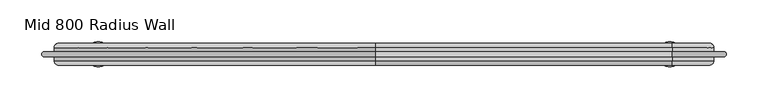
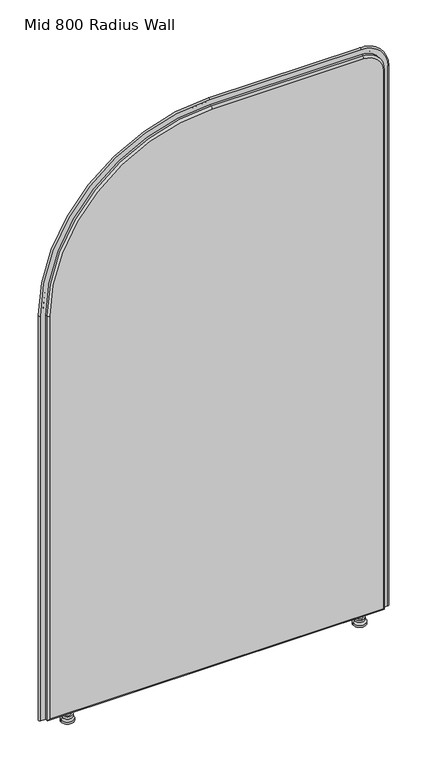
"""IFC4 building model written with IfcOpenShell, lengths in millimetres: furniture geometry, DBLTD_Sixteen3_PrivacyScreens_Artus_ArchRadius : Mid 800 Radius Wall."""

from ifc_helpers import new_model, si_unit, point, frame, origin, place, context, project, spatial, polyline, circle_curve, ellipse_curve, trimmed, source, transform, mapped, element, save
from ifc_brep_helpers import plane_surface, cylinder_surface, revolved_surface, advanced_brep


def mid_800_radius_wall_df8133a5(model_context):
    return source(origin(), model_context, "Body", "AdvancedBrep", [
        advanced_brep(
        [(342.2938623, -820.0, 22.0), (335.2938623, -820.0, 22.0), (349.2938623, -820.0, 22.0), (335.2938623, -820.0, 15.0), (349.2938623, -820.0, 15.0), (330.8431626, -820.0, 15.0), (353.744562, -820.0, 15.0), (330.8431626, -820.0, 10.0), (353.744562, -820.0, 10.0), (327.2938623, -820.0, 5.0), (357.2938623, -820.0, 5.0), (327.2938623, -820.0, 0.0), (357.2938623, -820.0, 0.0), (342.2938623, -820.0, 0.0)],
        [
            (0, 1),
            (1, 2, circle_curve(frame((342.2938623, -820.0, 22.0), z_axis=(0.0, 0.0, 1.0), x_axis=(1.0, 0.0, 0.0)), 7.0)),
            (2, 0),
            (2, 1, circle_curve(frame((342.2938623, -820.0, 22.0), z_axis=(0.0, 0.0, 1.0), x_axis=(1.0, 0.0, 0.0)), 7.0)),
            (1, 3),
            (3, 4, circle_curve(frame((342.2938623, -820.0, 15.0), z_axis=(0.0, 0.0, 1.0), x_axis=(1.0, 0.0, 0.0)), 7.0)),
            (4, 2),
            (4, 3, circle_curve(frame((342.2938623, -820.0, 15.0), z_axis=(0.0, 0.0, 1.0), x_axis=(1.0, 0.0, 0.0)), 7.0)),
            (3, 5),
            (5, 6, circle_curve(frame((342.2938623, -820.0, 15.0), z_axis=(0.0, 0.0, 1.0), x_axis=(1.0, 0.0, 0.0)), 11.4506997)),
            (6, 4),
            (6, 5, circle_curve(frame((342.2938623, -820.0, 15.0), z_axis=(0.0, 0.0, 1.0), x_axis=(1.0, 0.0, 0.0)), 11.4506997)),
            (5, 7),
            (7, 8, circle_curve(frame((342.2938623, -820.0, 10.0), z_axis=(0.0, 0.0, 1.0), x_axis=(1.0, 0.0, 0.0)), 11.4506997)),
            (8, 6),
            (8, 7, circle_curve(frame((342.2938623, -820.0, 10.0), z_axis=(0.0, 0.0, 1.0), x_axis=(1.0, 0.0, 0.0)), 11.4506997)),
            (7, 9),
            (9, 10, circle_curve(frame((342.2938623, -820.0, 5.0), z_axis=(0.0, 0.0, 1.0), x_axis=(1.0, 0.0, 0.0)), 15.0)),
            (10, 8),
            (10, 9, circle_curve(frame((342.2938623, -820.0, 5.0), z_axis=(0.0, 0.0, 1.0), x_axis=(1.0, 0.0, 0.0)), 15.0)),
            (9, 11),
            (11, 12, circle_curve(frame((342.2938623, -820.0, 0.0), z_axis=(0.0, 0.0, 1.0), x_axis=(1.0, 0.0, 0.0)), 15.0)),
            (12, 10),
            (12, 11, circle_curve(frame((342.2938623, -820.0, 0.0), z_axis=(0.0, 0.0, 1.0), x_axis=(1.0, 0.0, 0.0)), 15.0)),
            (11, 13),
            (13, 12),
        ],
        [
            plane_surface(frame((342.2938623, -820.0, 22.0), z_axis=(0.0, 0.0, 1.0), x_axis=(1.0, 0.0, 0.0))),
            cylinder_surface(frame((342.2938623, -820.0, 5.0), z_axis=(0.0, 0.0, 1.0), x_axis=(1.0, 0.0, 0.0)), 7.0),
            plane_surface(frame((342.2938623, -820.0, 15.0), z_axis=(0.0, 0.0, 1.0), x_axis=(1.0, 0.0, 0.0))),
            cylinder_surface(frame((342.2938623, -820.0, 5.0), z_axis=(0.0, 0.0, 1.0), x_axis=(1.0, 0.0, 0.0)), 11.4506997),
            revolved_surface(polyline([(357.2938623, -820.0, 5.0), (353.744562, -820.0, 10.0)]), (342.2938623, -820.0, 5.0), (0.0, 0.0, 1.0)),
            cylinder_surface(frame((342.2938623, -820.0, 5.0), z_axis=(0.0, 0.0, 1.0), x_axis=(1.0, 0.0, 0.0)), 15.0),
            plane_surface(frame((342.2938623, -820.0, 0.0), z_axis=(0.0, 0.0, -1.0), x_axis=(1.0, 0.0, 0.0))),
        ],
        [
            (0, [[1, 2, 3]]),
            (0, [[-3, 4, -1]]),
            (1, [[5, 6, 7, -2]]),
            (1, [[-7, 8, -5, -4]]),
            (2, [[9, 10, 11, -6]]),
            (2, [[-11, 12, -9, -8]]),
            (3, [[13, 14, 15, -10]]),
            (3, [[-15, 16, -13, -12]]),
            (4, [[17, 18, 19, -14]]),
            (4, [[-19, 20, -17, -16]]),
            (5, [[21, 22, 23, -18]]),
            (5, [[-23, 24, -21, -20]]),
            (6, [[25, 26, -22]]),
            (6, [[-26, -25, -24]]),
        ],
    ),
        advanced_brep(
        [(-335.2938623, -820.0, 22.0), (-342.2938623, -820.0, 22.0), (-349.2938623, -820.0, 22.0), (-335.2938623, -820.0, 15.0), (-349.2938623, -820.0, 15.0), (-330.8431626, -820.0, 15.0), (-353.744562, -820.0, 15.0), (-330.8431626, -820.0, 10.0), (-353.744562, -820.0, 10.0), (-327.2938623, -820.0, 5.0), (-357.2938623, -820.0, 5.0), (-327.2938623, -820.0, 0.0), (-357.2938623, -820.0, 0.0), (-342.2938623, -820.0, 0.0)],
        [
            (0, 1),
            (1, 2),
            (2, 0, circle_curve(frame((-342.2938623, -820.0, 22.0), z_axis=(0.0, 0.0, 1.0), x_axis=(-1.0, 0.0, 0.0)), 7.0)),
            (0, 2, circle_curve(frame((-342.2938623, -820.0, 22.0), z_axis=(0.0, 0.0, 1.0), x_axis=(-1.0, 0.0, 0.0)), 7.0)),
            (3, 0),
            (2, 4),
            (4, 3, circle_curve(frame((-342.2938623, -820.0, 15.0), z_axis=(0.0, 0.0, 1.0), x_axis=(-1.0, 0.0, 0.0)), 7.0)),
            (3, 4, circle_curve(frame((-342.2938623, -820.0, 15.0), z_axis=(0.0, 0.0, 1.0), x_axis=(-1.0, 0.0, 0.0)), 7.0)),
            (5, 3),
            (4, 6),
            (6, 5, circle_curve(frame((-342.2938623, -820.0, 15.0), z_axis=(0.0, 0.0, 1.0), x_axis=(-1.0, 0.0, 0.0)), 11.4506997)),
            (5, 6, circle_curve(frame((-342.2938623, -820.0, 15.0), z_axis=(0.0, 0.0, 1.0), x_axis=(-1.0, 0.0, 0.0)), 11.4506997)),
            (7, 5),
            (6, 8),
            (8, 7, circle_curve(frame((-342.2938623, -820.0, 10.0), z_axis=(0.0, 0.0, 1.0), x_axis=(-1.0, 0.0, 0.0)), 11.4506997)),
            (7, 8, circle_curve(frame((-342.2938623, -820.0, 10.0), z_axis=(0.0, 0.0, 1.0), x_axis=(-1.0, 0.0, 0.0)), 11.4506997)),
            (9, 7),
            (8, 10),
            (10, 9, circle_curve(frame((-342.2938623, -820.0, 5.0), z_axis=(0.0, 0.0, 1.0), x_axis=(-1.0, 0.0, 0.0)), 15.0)),
            (9, 10, circle_curve(frame((-342.2938623, -820.0, 5.0), z_axis=(0.0, 0.0, 1.0), x_axis=(-1.0, 0.0, 0.0)), 15.0)),
            (11, 9),
            (10, 12),
            (12, 11, circle_curve(frame((-342.2938623, -820.0, 0.0), z_axis=(0.0, 0.0, 1.0), x_axis=(-1.0, 0.0, 0.0)), 15.0)),
            (11, 12, circle_curve(frame((-342.2938623, -820.0, 0.0), z_axis=(0.0, 0.0, 1.0), x_axis=(-1.0, 0.0, 0.0)), 15.0)),
            (13, 11),
            (12, 13),
        ],
        [
            plane_surface(frame((-342.2938623, -820.0, 22.0), z_axis=(0.0, 0.0, 1.0), x_axis=(-1.0, 0.0, 0.0))),
            cylinder_surface(frame((-342.2938623, -820.0, 5.0), z_axis=(0.0, 0.0, -1.0), x_axis=(-1.0, 0.0, 0.0)), 7.0),
            plane_surface(frame((-342.2938623, -820.0, 15.0), z_axis=(0.0, 0.0, 1.0), x_axis=(-1.0, 0.0, 0.0))),
            cylinder_surface(frame((-342.2938623, -820.0, 5.0), z_axis=(0.0, 0.0, -1.0), x_axis=(-1.0, 0.0, 0.0)), 11.4506997),
            revolved_surface(polyline([(-353.744562, -820.0, 10.0), (-357.2938623, -820.0, 5.0)]), (-342.2938623, -820.0, 5.0), (0.0, 0.0, -1.0)),
            cylinder_surface(frame((-342.2938623, -820.0, 5.0), z_axis=(0.0, 0.0, -1.0), x_axis=(-1.0, 0.0, 0.0)), 15.0),
            plane_surface(frame((-342.2938623, -820.0, 0.0), z_axis=(0.0, 0.0, -1.0), x_axis=(-1.0, 0.0, 0.0))),
        ],
        [
            (0, [[1, 2, 3]]),
            (0, [[-2, -1, 4]]),
            (1, [[5, -3, 6, 7]]),
            (1, [[-6, -4, -5, 8]]),
            (2, [[9, -7, 10, 11]]),
            (2, [[-10, -8, -9, 12]]),
            (3, [[13, -11, 14, 15]]),
            (3, [[-14, -12, -13, 16]]),
            (4, [[17, -15, 18, 19]]),
            (4, [[-18, -16, -17, 20]]),
            (5, [[21, -19, 22, 23]]),
            (5, [[-22, -20, -21, 24]]),
            (6, [[25, -23, 26]]),
            (6, [[-26, -24, -25]]),
        ],
    ),
        advanced_brep(
        [(-390.0, -807.0, 27.0), (-390.0, -807.0, 1025.0), (-10.0, -807.0, 1405.0), (345.0, -807.0, 1405.0), (390.0, -807.0, 1360.0), (390.0, -807.0, 27.0), (390.0, -833.0, 27.0), (390.0, -833.0, 1360.0), (345.0, -833.0, 1405.0), (-10.0, -833.0, 1405.0), (-390.0, -833.0, 1025.0), (-390.0, -833.0, 27.0), (345.0, -812.0, 1410.0), (-10.0, -812.0, 1410.0), (-10.0, -828.0, 1410.0), (345.0, -828.0, 1410.0), (-395.0, -812.0, 1025.0), (-395.0, -828.0, 1025.0), (-395.0, -812.0, 22.0), (-395.0, -828.0, 22.0), (395.0, -812.0, 22.0), (395.0, -828.0, 22.0), (395.0, -812.0, 1360.0), (395.0, -828.0, 1360.0)],
        [
            (0, 1),
            (1, 2, circle_curve(frame((-10.0, -807.0, 1025.0), z_axis=(0.0, 1.0, 0.0), x_axis=(0.0, 0.0, 1.0)), 380.0)),
            (2, 3),
            (3, 4, circle_curve(frame((345.0, -807.0, 1360.0), z_axis=(0.0, 1.0, 0.0), x_axis=(1.0, 0.0, 0.0)), 45.0)),
            (4, 5),
            (5, 0),
            (6, 7),
            (7, 8, circle_curve(frame((345.0, -833.0, 1360.0), z_axis=(0.0, -1.0, 0.0), x_axis=(1.0, 0.0, 0.0)), 45.0)),
            (8, 9),
            (9, 10, circle_curve(frame((-10.0, -833.0, 1025.0), z_axis=(0.0, -1.0, 0.0), x_axis=(0.0, 0.0, 1.0)), 380.0)),
            (10, 11),
            (11, 6),
            (12, 13),
            (13, 14),
            (14, 15),
            (15, 12),
            (13, 16, circle_curve(frame((-10.0, -812.0, 1025.0), z_axis=(0.0, -1.0, 0.0), x_axis=(1.0, 0.0, 0.0)), 385.0)),
            (16, 17),
            (17, 14, circle_curve(frame((-10.0, -828.0, 1025.0), z_axis=(0.0, 1.0, 0.0), x_axis=(1.0, 0.0, 0.0)), 385.0)),
            (16, 18),
            (18, 19),
            (19, 17),
            (18, 20),
            (20, 21),
            (21, 19),
            (20, 22),
            (22, 23),
            (23, 21),
            (15, 23, circle_curve(frame((345.0, -828.0, 1360.0), z_axis=(0.0, 1.0, 0.0), x_axis=(1.0, 0.0, 0.0)), 50.0)),
            (22, 12, circle_curve(frame((345.0, -812.0, 1360.0), z_axis=(0.0, -1.0, 0.0), x_axis=(1.0, 0.0, 0.0)), 50.0)),
            (18, 0, ellipse_curve(frame((-390.0, -812.0, 27.0), z_axis=(0.7071067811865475, 0.0, -0.7071067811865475), x_axis=(0.7071067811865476, 0.0, 0.7071067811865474)), 7.0710678, 5.0)),
            (5, 20, ellipse_curve(frame((390.0, -812.0, 27.0), z_axis=(-0.7071067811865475, 0.0, -0.7071067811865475), x_axis=(0.7071067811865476, 0.0, -0.7071067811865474)), 7.0710678, 5.0)),
            (11, 19, ellipse_curve(frame((-390.0, -828.0, 27.0), z_axis=(0.7071067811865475, 0.0, -0.7071067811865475), x_axis=(0.7071067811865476, 0.0, 0.7071067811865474)), 7.0710678, 5.0)),
            (21, 6, ellipse_curve(frame((390.0, -828.0, 27.0), z_axis=(-0.7071067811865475, 0.0, -0.7071067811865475), x_axis=(0.7071067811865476, 0.0, -0.7071067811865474)), 7.0710678, 5.0)),
            (4, 22, circle_curve(frame((390.0, -812.0, 1360.0), z_axis=(0.0, 0.0, -1.0), x_axis=(1.0, 0.0, 0.0)), 5.0)),
            (23, 7, circle_curve(frame((390.0, -828.0, 1360.0), z_axis=(0.0, 0.0, -1.0), x_axis=(1.0, 0.0, 0.0)), 5.0)),
            (3, 12, circle_curve(frame((345.0, -812.0, 1405.0), z_axis=(1.0, 0.0, 0.0), x_axis=(0.0, 0.0, 1.0)), 5.0)),
            (15, 8, circle_curve(frame((345.0, -828.0, 1405.0), z_axis=(1.0, 0.0, 0.0), x_axis=(0.0, 0.0, 1.0)), 5.0)),
            (2, 13, circle_curve(frame((-10.0, -812.0, 1405.0), z_axis=(1.0, 0.0, 0.0), x_axis=(0.0, 0.0, 1.0)), 5.0)),
            (14, 9, circle_curve(frame((-10.0, -828.0, 1405.0), z_axis=(1.0, 0.0, 0.0), x_axis=(0.0, 0.0, 1.0)), 5.0)),
            (1, 16, circle_curve(frame((-390.0, -812.0, 1025.0), z_axis=(0.0, 0.0, 1.0), x_axis=(-1.0, 0.0, 0.0)), 5.0)),
            (17, 10, circle_curve(frame((-390.0, -828.0, 1025.0), z_axis=(0.0, 0.0, 1.0), x_axis=(-1.0, 0.0, 0.0)), 5.0)),
        ],
        [
            plane_surface(frame((-10.0, -807.0, 1410.0), z_axis=(0.0, 1.0, 0.0), x_axis=(-1.0, 0.0, 0.0))),
            plane_surface(frame((-10.0, -833.0, 1410.0), z_axis=(0.0, -1.0, 0.0), x_axis=(1.0, 0.0, 0.0))),
            plane_surface(frame((345.0, -807.0, 1410.0), z_axis=(0.0, 0.0, 1.0), x_axis=(0.0, -1.0, 0.0))),
            cylinder_surface(frame((-10.0, -833.0, 1025.0), z_axis=(0.0, 1.0, 0.0), x_axis=(1.0, 0.0, 0.0)), 385.0),
            plane_surface(frame((-395.0, -807.0, 1025.0), z_axis=(-1.0, 0.0, 0.0), x_axis=(0.0, -1.0, 0.0))),
            plane_surface(frame((-395.0, -807.0, 22.0), z_axis=(0.0, 0.0, -1.0), x_axis=(0.0, -1.0, 0.0))),
            plane_surface(frame((395.0, -807.0, 22.0), z_axis=(1.0, 0.0, 0.0), x_axis=(0.0, -1.0, 0.0))),
            cylinder_surface(frame((345.0, -833.0, 1360.0), z_axis=(0.0, 1.0, 0.0), x_axis=(1.0, 0.0, 0.0)), 50.0),
            cylinder_surface(frame((-395.0, -812.0, 27.0), z_axis=(1.0, 0.0, 0.0), x_axis=(0.0, 0.0, -1.0)), 5.0),
            cylinder_surface(frame((-395.0, -828.0, 27.0), z_axis=(1.0, 0.0, 0.0), x_axis=(0.0, 0.0, -1.0)), 5.0),
            cylinder_surface(frame((390.0, -812.0, 22.0), z_axis=(0.0, 0.0, 1.0), x_axis=(1.0, 0.0, 0.0)), 5.0),
            cylinder_surface(frame((390.0, -828.0, 22.0), z_axis=(0.0, 0.0, 1.0), x_axis=(1.0, 0.0, 0.0)), 5.0),
            revolved_surface(trimmed(ellipse_curve(frame((390.0, -812.0, 1360.0), z_axis=(0.0, 0.0, 1.0), x_axis=(1.0, 0.0, 0.0)), 5.0, 5.0), [point((395.0, -812.0, 1360.0))], [point((390.0, -807.0, 1360.0))], True, "CARTESIAN"), (345.0, -807.0, 1360.0), (0.0, 1.0, 0.0)),
            revolved_surface(trimmed(ellipse_curve(frame((390.0, -828.0, 1360.0), z_axis=(0.0, 0.0, 1.0), x_axis=(1.0, 0.0, 0.0)), 5.0, 5.0), [point((390.0, -833.0, 1360.0))], [point((395.0, -828.0, 1360.0))], True, "CARTESIAN"), (345.0, -807.0, 1360.0), (0.0, 1.0, 0.0)),
            cylinder_surface(frame((345.0, -812.0, 1405.0), z_axis=(-1.0, 0.0, 0.0), x_axis=(0.0, 0.0, 1.0)), 5.0),
            cylinder_surface(frame((345.0, -828.0, 1405.0), z_axis=(-1.0, 0.0, 0.0), x_axis=(0.0, 0.0, 1.0)), 5.0),
            revolved_surface(trimmed(ellipse_curve(frame((-10.0, -812.0, 1405.0), z_axis=(-1.0, 0.0, 0.0), x_axis=(0.0, 0.0, 1.0)), 5.0, 5.0), [point((-10.0, -812.0, 1410.0))], [point((-10.0, -807.0, 1405.0))], True, "CARTESIAN"), (-10.0, -807.0, 1025.0), (0.0, 1.0, 0.0)),
            revolved_surface(trimmed(ellipse_curve(frame((-10.0, -828.0, 1405.0), z_axis=(-1.0, 0.0, 0.0), x_axis=(0.0, 0.0, 1.0)), 5.0, 5.0), [point((-10.0, -833.0, 1405.0))], [point((-10.0, -828.0, 1410.0))], True, "CARTESIAN"), (-10.0, -807.0, 1025.0), (0.0, 1.0, 0.0)),
            cylinder_surface(frame((-390.0, -812.0, 1025.0), z_axis=(0.0, 0.0, -1.0), x_axis=(-1.0, 0.0, 0.0)), 5.0),
            cylinder_surface(frame((-390.0, -828.0, 1025.0), z_axis=(0.0, 0.0, -1.0), x_axis=(-1.0, 0.0, 0.0)), 5.0),
        ],
        [
            (0, [[1, 2, 3, 4, 5, 6]]),
            (1, [[7, 8, 9, 10, 11, 12]]),
            (2, [[13, 14, 15, 16]]),
            (3, [[17, 18, 19, -14]]),
            (4, [[20, 21, 22, -18]]),
            (5, [[23, 24, 25, -21]]),
            (6, [[26, 27, 28, -24]]),
            (7, [[29, -27, 30, -16]]),
            (8, [[-23, 31, -6, 32]]),
            (9, [[-12, 33, -25, 34]]),
            (10, [[-5, 35, -26, -32]]),
            (11, [[-28, 36, -7, -34]]),
            (12, [[-4, 37, -30, -35]]),
            (13, [[-29, 38, -8, -36]]),
            (14, [[-3, 39, -13, -37]]),
            (15, [[-15, 40, -9, -38]]),
            (16, [[-2, 41, -17, -39]]),
            (17, [[-19, 42, -10, -40]]),
            (18, [[-20, -41, -1, -31]]),
            (19, [[-11, -42, -22, -33]]),
        ],
    ),
        advanced_brep(
        [(406.9577057, -823.0, 22.0), (395.0, -823.0, 22.0), (395.0, -817.0, 22.0), (406.9577057, -817.0, 22.0), (406.9577057, -817.0, 1360.0), (406.9577057, -823.0, 1360.0), (395.0, -817.0, 1360.0), (345.0, -817.0, 1410.0), (-10.0, -817.0, 1410.0), (-395.0, -817.0, 1025.0), (-395.0, -817.0, 22.0), (-406.9577057, -817.0, 22.0), (-406.9577057, -817.0, 1025.0), (-10.0, -817.0, 1421.9577057), (345.0, -817.0, 1421.9577057), (395.0, -823.0, 1360.0), (345.0, -823.0, 1421.9577057), (-10.0, -823.0, 1421.9577057), (-406.9577057, -823.0, 1025.0), (-406.9577057, -823.0, 22.0), (-395.0, -823.0, 22.0), (-395.0, -823.0, 1025.0), (-10.0, -823.0, 1410.0), (345.0, -823.0, 1410.0)],
        [
            (0, 1),
            (1, 2),
            (2, 3),
            (3, 0, circle_curve(frame((406.9577057, -820.0, 22.0), z_axis=(0.0, 0.0, -1.0), x_axis=(1.0, 0.0, 0.0)), 3.0)),
            (3, 4),
            (4, 5, circle_curve(frame((406.9577057, -820.0, 1360.0), z_axis=(0.0, 0.0, -1.0), x_axis=(1.0, 0.0, 0.0)), 3.0)),
            (5, 0),
            (2, 6),
            (6, 7, circle_curve(frame((345.0, -817.0, 1360.0), z_axis=(0.0, -1.0, 0.0), x_axis=(1.0, 0.0, 0.0)), 50.0)),
            (7, 8),
            (8, 9, circle_curve(frame((-10.0, -817.0, 1025.0), z_axis=(0.0, -1.0, 0.0), x_axis=(0.0, 0.0, 1.0)), 385.0)),
            (9, 10),
            (10, 11),
            (11, 12),
            (12, 13, circle_curve(frame((-10.0, -817.0, 1025.0), z_axis=(0.0, 1.0, 0.0), x_axis=(0.0, 0.0, 1.0)), 396.9577057)),
            (13, 14),
            (14, 4, circle_curve(frame((345.0, -817.0, 1360.0), z_axis=(0.0, 1.0, 0.0), x_axis=(1.0, 0.0, 0.0)), 61.9577057)),
            (1, 15),
            (15, 6),
            (5, 16, circle_curve(frame((345.0, -823.0, 1360.0), z_axis=(0.0, -1.0, 0.0), x_axis=(1.0, 0.0, 0.0)), 61.9577057)),
            (16, 17),
            (17, 18, circle_curve(frame((-10.0, -823.0, 1025.0), z_axis=(0.0, -1.0, 0.0), x_axis=(0.0, 0.0, 1.0)), 396.9577057)),
            (18, 19),
            (19, 20),
            (20, 21),
            (21, 22, circle_curve(frame((-10.0, -823.0, 1025.0), z_axis=(0.0, 1.0, 0.0), x_axis=(0.0, 0.0, 1.0)), 385.0)),
            (22, 23),
            (23, 15, circle_curve(frame((345.0, -823.0, 1360.0), z_axis=(0.0, 1.0, 0.0), x_axis=(1.0, 0.0, 0.0)), 50.0)),
            (14, 16, circle_curve(frame((345.0, -820.0, 1421.9577057), z_axis=(1.0, 0.0, 0.0), x_axis=(0.0, 0.0, 1.0)), 3.0)),
            (23, 7),
            (13, 17, circle_curve(frame((-10.0, -820.0, 1421.9577057), z_axis=(1.0, 0.0, 0.0), x_axis=(0.0, 0.0, 1.0)), 3.0)),
            (22, 8),
            (12, 18, circle_curve(frame((-406.9577057, -820.0, 1025.0), z_axis=(0.0, 0.0, 1.0), x_axis=(-1.0, 0.0, 0.0)), 3.0)),
            (21, 9),
            (19, 11, circle_curve(frame((-406.9577057, -820.0, 22.0), z_axis=(0.0, 0.0, -1.0), x_axis=(-1.0, 0.0, 0.0)), 3.0)),
            (10, 20),
        ],
        [
            plane_surface(frame((395.0, -807.0, 22.0), z_axis=(0.0, 0.0, -1.0), x_axis=(1.0, 0.0, 0.0))),
            cylinder_surface(frame((406.9577057, -820.0, 22.0), z_axis=(0.0, 0.0, -1.0), x_axis=(1.0, 0.0, 0.0)), 3.0),
            plane_surface(frame((406.9577057, -817.0, 22.0), z_axis=(0.0, 1.0, 0.0), x_axis=(0.0, 0.0, 1.0))),
            plane_surface(frame((395.0, -817.0, 22.0), z_axis=(-1.0, 0.0, 0.0), x_axis=(0.0, 0.0, 1.0))),
            plane_surface(frame((395.0, -823.0, 22.0), z_axis=(0.0, -1.0, 0.0), x_axis=(0.0, 0.0, 1.0))),
            revolved_surface(trimmed(ellipse_curve(frame((406.9577057, -820.0, 1360.0), z_axis=(0.0, 0.0, 1.0), x_axis=(1.0, 0.0, 0.0)), 3.0, 3.0), [point((406.9577057, -823.0, 1360.0))], [point((406.9577057, -817.0, 1360.0))], True, "CARTESIAN"), (345.0, -807.0, 1360.0), (0.0, 1.0, 0.0)),
            revolved_surface(polyline([(395.0, -817.0, 1360.0), (395.0, -823.0, 1360.0)]), (345.0, -807.0, 1360.0), (0.0, 1.0, 0.0)),
            cylinder_surface(frame((345.0, -820.0, 1421.9577057), z_axis=(1.0, 0.0, 0.0), x_axis=(0.0, 0.0, 1.0)), 3.0),
            plane_surface(frame((345.0, -817.0, 1410.0), z_axis=(0.0, 0.0, -1.0), x_axis=(-1.0, 0.0, 0.0))),
            revolved_surface(trimmed(ellipse_curve(frame((-10.0, -820.0, 1421.9577057), z_axis=(-1.0, 0.0, 0.0), x_axis=(0.0, 0.0, 1.0)), 3.0, 3.0), [point((-10.0, -823.0, 1421.9577057))], [point((-10.0, -817.0, 1421.9577057))], True, "CARTESIAN"), (-10.0, -807.0, 1025.0), (0.0, 1.0, 0.0)),
            revolved_surface(polyline([(-10.0, -817.0, 1410.0), (-10.0, -823.0, 1410.0)]), (-10.0, -807.0, 1025.0), (0.0, 1.0, 0.0)),
            plane_surface(frame((-395.0, -807.0, 22.0), z_axis=(0.0, 0.0, -1.0), x_axis=(-1.0, 0.0, 0.0))),
            cylinder_surface(frame((-406.9577057, -820.0, 1025.0), z_axis=(0.0, 0.0, 1.0), x_axis=(-1.0, 0.0, 0.0)), 3.0),
            plane_surface(frame((-395.0, -817.0, 1025.0), z_axis=(1.0, 0.0, 0.0), x_axis=(0.0, 0.0, -1.0))),
        ],
        [
            (0, [[1, 2, 3, 4]]),
            (1, [[5, 6, 7, -4]]),
            (2, [[8, 9, 10, 11, 12, 13, 14, 15, 16, 17, -5, -3]]),
            (3, [[18, 19, -8, -2]]),
            (4, [[-7, 20, 21, 22, 23, 24, 25, 26, 27, 28, -18, -1]]),
            (5, [[29, -20, -6, -17]]),
            (6, [[30, -9, -19, -28]]),
            (7, [[-16, 31, -21, -29]]),
            (8, [[-27, 32, -10, -30]]),
            (9, [[33, -22, -31, -15]]),
            (10, [[34, -11, -32, -26]]),
            (11, [[35, -13, 36, -24]]),
            (12, [[-14, -35, -23, -33]]),
            (13, [[-25, -36, -12, -34]]),
        ],
    ),
    ])


if __name__ == "__main__":
    model = new_model("IFC4")
    model_context = context("Model", 3, world=origin())
    ifc_project = project(units=[si_unit("LENGTHUNIT", "METRE", prefix="MILLI")], contexts=[model_context])
    site = spatial("IfcSite", under=ifc_project)
    building = spatial("IfcBuilding", under=site)
    placement = place(None, origin())
    mid_800_radius_wall_shape = mid_800_radius_wall_df8133a5(model_context)
    element("IfcFurniture", 1, ObjectType="DBLTD_Sixteen3_PrivacyScreens_Artus_ArchRadius : Mid 800 Radius Wall", at=placement, inside=building, context=model_context, shape_type="MappedRepresentation", body=[
        mapped(mid_800_radius_wall_shape, transform((0.0, 0.0, 0.0), x_axis=(1.0, 0.0, 0.0), y_axis=(0.0, 1.0, 0.0), z_axis=(0.0, 0.0, 1.0))),
    ])
    save(model, "model.ifc")
